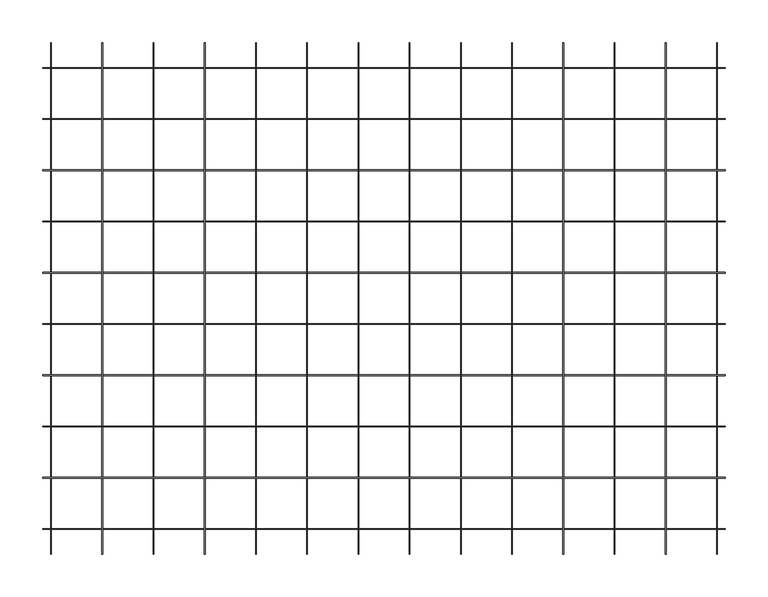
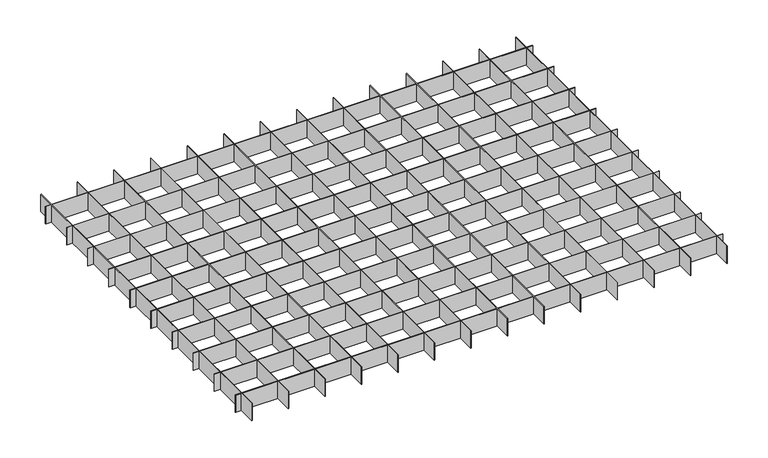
"""IFC4 building model written with IfcOpenShell, lengths in millimetres: proxy geometry, durlum_QUADRA_panel : durlum_QUADRA_length_cut."""

from ifc_helpers import new_model, si_unit, origin, origin_with_axes, place, context, project, spatial, polyline, outline, extrude, source, transform, mapped, element, save


def generic_models_4d5361e3(model_context):
    return source(origin(), model_context, "Body", "SweptSolid", [
        extrude(outline(polyline([(399.75, -209.6), (399.75, -210.4), (-399.75, -210.4), (-399.75, -209.6), (399.75, -209.6)])), origin_with_axes(), (0.0, 0.0, 1.0), 30.0),
        extrude(outline(polyline([(399.75, -149.6), (399.75, -150.4), (-399.75, -150.4), (-399.75, -149.6), (399.75, -149.6)])), origin_with_axes(), (0.0, 0.0, 1.0), 30.0),
        extrude(outline(polyline([(329.6, 299.5), (330.4, 299.5), (330.4, -299.5), (329.6, -299.5), (329.6, 299.5)])), origin_with_axes(), (0.0, 0.0, 1.0), 30.0),
        extrude(outline(polyline([(269.6, 299.5), (270.4, 299.5), (270.4, -299.5), (269.6, -299.5), (269.6, 299.5)])), origin_with_axes(), (0.0, 0.0, 1.0), 30.0),
        extrude(outline(polyline([(209.6, 299.5), (210.4, 299.5), (210.4, -299.5), (209.6, -299.5), (209.6, 299.5)])), origin_with_axes(), (0.0, 0.0, 1.0), 30.0),
        extrude(outline(polyline([(149.6, 299.5), (150.4, 299.5), (150.4, -299.5), (149.6, -299.5), (149.6, 299.5)])), origin_with_axes(), (0.0, 0.0, 1.0), 30.0),
        extrude(outline(polyline([(89.6, 299.5), (90.4, 299.5), (90.4, -299.5), (89.6, -299.5), (89.6, 299.5)])), origin_with_axes(), (0.0, 0.0, 1.0), 30.0),
        extrude(outline(polyline([(29.6, 299.5), (30.4, 299.5), (30.4, -299.5), (29.6, -299.5), (29.6, 299.5)])), origin_with_axes(), (0.0, 0.0, 1.0), 30.0),
        extrude(outline(polyline([(-30.4, 299.5), (-29.6, 299.5), (-29.6, -299.5), (-30.4, -299.5), (-30.4, 299.5)])), origin_with_axes(), (0.0, 0.0, 1.0), 30.0),
        extrude(outline(polyline([(-90.4, 299.5), (-89.6, 299.5), (-89.6, -299.5), (-90.4, -299.5), (-90.4, 299.5)])), origin_with_axes(), (0.0, 0.0, 1.0), 30.0),
        extrude(outline(polyline([(-150.4, 299.5), (-149.6, 299.5), (-149.6, -299.5), (-150.4, -299.5), (-150.4, 299.5)])), origin_with_axes(), (0.0, 0.0, 1.0), 30.0),
        extrude(outline(polyline([(-210.4, 299.5), (-209.6, 299.5), (-209.6, -299.5), (-210.4, -299.5), (-210.4, 299.5)])), origin_with_axes(), (0.0, 0.0, 1.0), 30.0),
        extrude(outline(polyline([(-270.4, 299.5), (-269.6, 299.5), (-269.6, -299.5), (-270.4, -299.5), (-270.4, 299.5)])), origin_with_axes(), (0.0, 0.0, 1.0), 30.0),
        extrude(outline(polyline([(-330.4, 299.5), (-329.6, 299.5), (-329.6, -299.5), (-330.4, -299.5), (-330.4, 299.5)])), origin_with_axes(), (0.0, 0.0, 1.0), 30.0),
        extrude(outline(polyline([(399.75, -89.6), (399.75, -90.4), (-399.75, -90.4), (-399.75, -89.6), (399.75, -89.6)])), origin_with_axes(), (0.0, 0.0, 1.0), 30.0),
        extrude(outline(polyline([(399.75, -29.6), (399.75, -30.4), (-399.75, -30.4), (-399.75, -29.6), (399.75, -29.6)])), origin_with_axes(), (0.0, 0.0, 1.0), 30.0),
        extrude(outline(polyline([(399.75, 30.4), (399.75, 29.6), (-399.75, 29.6), (-399.75, 30.4), (399.75, 30.4)])), origin_with_axes(), (0.0, 0.0, 1.0), 30.0),
        extrude(outline(polyline([(399.75, 90.4), (399.75, 89.6), (-399.75, 89.6), (-399.75, 90.4), (399.75, 90.4)])), origin_with_axes(), (0.0, 0.0, 1.0), 30.0),
        extrude(outline(polyline([(399.75, 150.4), (399.75, 149.6), (-399.75, 149.6), (-399.75, 150.4), (399.75, 150.4)])), origin_with_axes(), (0.0, 0.0, 1.0), 30.0),
        extrude(outline(polyline([(399.75, 210.4), (399.75, 209.6), (-399.75, 209.6), (-399.75, 210.4), (399.75, 210.4)])), origin_with_axes(), (0.0, 0.0, 1.0), 30.0),
        extrude(outline(polyline([(389.6, 299.5), (390.4, 299.5), (390.4, -299.5), (389.6, -299.5), (389.6, 299.5)])), origin_with_axes(), (0.0, 0.0, 1.0), 30.0),
        extrude(outline(polyline([(-390.4, 299.5), (-389.6, 299.5), (-389.6, -299.5), (-390.4, -299.5), (-390.4, 299.5)])), origin_with_axes(), (0.0, 0.0, 1.0), 30.0),
        extrude(outline(polyline([(399.75, -269.6), (399.75, -270.4), (-399.75, -270.4), (-399.75, -269.6), (399.75, -269.6)])), origin_with_axes(), (0.0, 0.0, 1.0), 30.0),
        extrude(outline(polyline([(399.75, 270.4), (399.75, 269.6), (-399.75, 269.6), (-399.75, 270.4), (399.75, 270.4)])), origin_with_axes(), (0.0, 0.0, 1.0), 30.0),
    ])


if __name__ == "__main__":
    model = new_model("IFC4")
    model_context = context("Model", 3, world=origin())
    ifc_project = project(units=[si_unit("LENGTHUNIT", "METRE", prefix="MILLI")], contexts=[model_context])
    site = spatial("IfcSite", under=ifc_project)
    building = spatial("IfcBuilding", under=site)
    placement = place(None, origin())
    generic_models_shape = generic_models_4d5361e3(model_context)
    element("IfcBuildingElementProxy", 1, Name="durlum_QUADRA_panel : durlum_QUADRA_length_cut", ObjectType="durlum_QUADRA_panel : durlum_QUADRA_length_cut", at=placement, inside=building, context=model_context, shape_type="MappedRepresentation", body=[
        mapped(generic_models_shape, transform((0.0, 0.0, 0.0), x_axis=(1.0, 0.0, 0.0), y_axis=(0.0, 1.0, 0.0), z_axis=(0.0, 0.0, 1.0))),
    ])
    save(model, "model.ifc")
